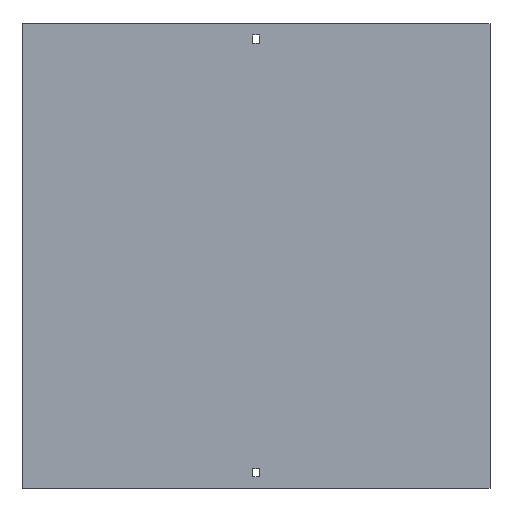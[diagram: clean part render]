
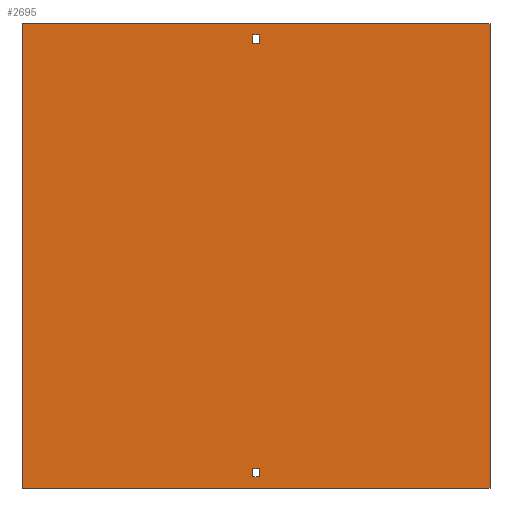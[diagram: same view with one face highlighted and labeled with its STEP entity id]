
A CAD part, front view. The second image highlights one B-rep face of the part: STEP entity #2695.
In plain terms, the highlighted planar face has unit normal (0, -1, 0).
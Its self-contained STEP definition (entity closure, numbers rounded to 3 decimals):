
#17 = CARTESIAN_POINT ( 'NONE',  ( -252., 0., -250. ) ) ;
#29 = VERTEX_POINT ( 'NONE', #17 ) ;
#41 = LINE ( 'NONE', #2414, #1648 ) ;
#57 = LINE ( 'NONE', #2650, #1333 ) ;
#61 = FACE_BOUND ( 'NONE', #2345, .T. ) ;
#82 = VECTOR ( 'NONE', #1826, 1000. ) ;
#109 = CARTESIAN_POINT ( 'NONE',  ( -252., 0., 250. ) ) ;
#125 = LINE ( 'NONE', #109, #2412 ) ;
#224 = DIRECTION ( 'NONE',  ( 0., 1., 0. ) ) ;
#256 = VERTEX_POINT ( 'NONE', #534 ) ;
#280 = CARTESIAN_POINT ( 'NONE',  ( -252., 0., 250. ) ) ;
#292 = VECTOR ( 'NONE', #1107, 1000. ) ;
#301 = VECTOR ( 'NONE', #2267, 1000. ) ;
#345 = CARTESIAN_POINT ( 'NONE',  ( -252., 0., -250. ) ) ;
#352 = CARTESIAN_POINT ( 'NONE',  ( -3.25, 0., -238. ) ) ;
#373 = DIRECTION ( 'NONE',  ( -1., 0., 0. ) ) ;
#444 = EDGE_CURVE ( 'NONE', #1055, #29, #1349, .T. ) ;
#498 = EDGE_LOOP ( 'NONE', ( #2254, #854, #996, #1652 ) ) ;
#534 = CARTESIAN_POINT ( 'NONE',  ( 3.25, 0., -229. ) ) ;
#544 = CARTESIAN_POINT ( 'NONE',  ( 3.25, 0., 238. ) ) ;
#551 = VERTEX_POINT ( 'NONE', #1809 ) ;
#552 = EDGE_CURVE ( 'NONE', #1179, #2027, #2661, .T. ) ;
#553 = LINE ( 'NONE', #345, #2188 ) ;
#580 = CARTESIAN_POINT ( 'NONE',  ( -3.25, 0., -229. ) ) ;
#631 = ORIENTED_EDGE ( 'NONE', *, *, #1662, .T. ) ;
#643 = DIRECTION ( 'NONE',  ( 1., 0., 0. ) ) ;
#670 = DIRECTION ( 'NONE',  ( -1., 0., 0. ) ) ;
#761 = EDGE_CURVE ( 'NONE', #1334, #551, #1670, .T. ) ;
#767 = ORIENTED_EDGE ( 'NONE', *, *, #967, .F. ) ;
#833 = ORIENTED_EDGE ( 'NONE', *, *, #1322, .F. ) ;
#854 = ORIENTED_EDGE ( 'NONE', *, *, #875, .F. ) ;
#875 = EDGE_CURVE ( 'NONE', #2545, #1916, #41, .T. ) ;
#893 = EDGE_CURVE ( 'NONE', #2241, #1179, #1304, .T. ) ;
#943 = DIRECTION ( 'NONE',  ( 0., 0., -1. ) ) ;
#967 = EDGE_CURVE ( 'NONE', #551, #2727, #995, .T. ) ;
#969 = LINE ( 'NONE', #986, #301 ) ;
#986 = CARTESIAN_POINT ( 'NONE',  ( -3.25, 0., -229. ) ) ;
#994 = DIRECTION ( 'NONE',  ( 1., 0., 0. ) ) ;
#995 = LINE ( 'NONE', #1617, #2671 ) ;
#996 = ORIENTED_EDGE ( 'NONE', *, *, #2051, .F. ) ;
#1055 = VERTEX_POINT ( 'NONE', #1147 ) ;
#1107 = DIRECTION ( 'NONE',  ( 0., 0., -1. ) ) ;
#1147 = CARTESIAN_POINT ( 'NONE',  ( -252., 0., 250. ) ) ;
#1172 = ORIENTED_EDGE ( 'NONE', *, *, #1807, .T. ) ;
#1179 = VERTEX_POINT ( 'NONE', #1659 ) ;
#1303 = CARTESIAN_POINT ( 'NONE',  ( 3.25, 0., 238. ) ) ;
#1304 = LINE ( 'NONE', #1738, #1954 ) ;
#1322 = EDGE_CURVE ( 'NONE', #2727, #1988, #2613, .T. ) ;
#1329 = VECTOR ( 'NONE', #1840, 1000. ) ;
#1333 = VECTOR ( 'NONE', #943, 1000. ) ;
#1334 = VERTEX_POINT ( 'NONE', #1303 ) ;
#1349 = LINE ( 'NONE', #2372, #292 ) ;
#1430 = AXIS2_PLACEMENT_3D ( 'NONE', #280, #224, #670 ) ;
#1538 = CARTESIAN_POINT ( 'NONE',  ( 252., 0., -250. ) ) ;
#1566 = CARTESIAN_POINT ( 'NONE',  ( -3.25, 0., 229. ) ) ;
#1573 = DIRECTION ( 'NONE',  ( 0., 0., -1. ) ) ;
#1602 = VECTOR ( 'NONE', #643, 1000. ) ;
#1615 = ORIENTED_EDGE ( 'NONE', *, *, #552, .T. ) ;
#1617 = CARTESIAN_POINT ( 'NONE',  ( -3.25, 0., 238. ) ) ;
#1648 = VECTOR ( 'NONE', #2190, 1000. ) ;
#1652 = ORIENTED_EDGE ( 'NONE', *, *, #444, .T. ) ;
#1659 = CARTESIAN_POINT ( 'NONE',  ( -3.25, 0., -238. ) ) ;
#1662 = EDGE_CURVE ( 'NONE', #256, #2241, #57, .T. ) ;
#1670 = LINE ( 'NONE', #2090, #2752 ) ;
#1693 = ORIENTED_EDGE ( 'NONE', *, *, #1804, .F. ) ;
#1738 = CARTESIAN_POINT ( 'NONE',  ( -3.25, 0., -238. ) ) ;
#1749 = DIRECTION ( 'NONE',  ( -1., 0., 0. ) ) ;
#1804 = EDGE_CURVE ( 'NONE', #1988, #1334, #2500, .T. ) ;
#1805 = CARTESIAN_POINT ( 'NONE',  ( 3.25, 0., 229. ) ) ;
#1807 = EDGE_CURVE ( 'NONE', #2027, #256, #969, .T. ) ;
#1809 = CARTESIAN_POINT ( 'NONE',  ( -3.25, 0., 238. ) ) ;
#1826 = DIRECTION ( 'NONE',  ( 0., 0., 1. ) ) ;
#1840 = DIRECTION ( 'NONE',  ( 0., 0., 1. ) ) ;
#1889 = CARTESIAN_POINT ( 'NONE',  ( 252., 0., 250. ) ) ;
#1916 = VERTEX_POINT ( 'NONE', #1538 ) ;
#1942 = EDGE_LOOP ( 'NONE', ( #1615, #1172, #631, #2209 ) ) ;
#1954 = VECTOR ( 'NONE', #1749, 1000. ) ;
#1988 = VERTEX_POINT ( 'NONE', #1805 ) ;
#2027 = VERTEX_POINT ( 'NONE', #580 ) ;
#2051 = EDGE_CURVE ( 'NONE', #1055, #2545, #125, .T. ) ;
#2090 = CARTESIAN_POINT ( 'NONE',  ( -3.25, 0., 238. ) ) ;
#2125 = EDGE_CURVE ( 'NONE', #29, #1916, #553, .T. ) ;
#2154 = CARTESIAN_POINT ( 'NONE',  ( 3.25, 0., -238. ) ) ;
#2188 = VECTOR ( 'NONE', #994, 1000. ) ;
#2190 = DIRECTION ( 'NONE',  ( 0., 0., -1. ) ) ;
#2206 = ORIENTED_EDGE ( 'NONE', *, *, #761, .F. ) ;
#2209 = ORIENTED_EDGE ( 'NONE', *, *, #893, .T. ) ;
#2241 = VERTEX_POINT ( 'NONE', #2154 ) ;
#2254 = ORIENTED_EDGE ( 'NONE', *, *, #2125, .T. ) ;
#2267 = DIRECTION ( 'NONE',  ( 1., 0., 0. ) ) ;
#2345 = EDGE_LOOP ( 'NONE', ( #833, #767, #2206, #1693 ) ) ;
#2372 = CARTESIAN_POINT ( 'NONE',  ( -252., 0., 250. ) ) ;
#2377 = FACE_BOUND ( 'NONE', #1942, .T. ) ;
#2412 = VECTOR ( 'NONE', #2672, 1000. ) ;
#2414 = CARTESIAN_POINT ( 'NONE',  ( 252., 0., 250. ) ) ;
#2432 = PLANE ( 'NONE',  #1430 ) ;
#2500 = LINE ( 'NONE', #544, #82 ) ;
#2545 = VERTEX_POINT ( 'NONE', #1889 ) ;
#2567 = CARTESIAN_POINT ( 'NONE',  ( -3.25, 0., 229. ) ) ;
#2594 = FACE_OUTER_BOUND ( 'NONE', #498, .T. ) ;
#2613 = LINE ( 'NONE', #2567, #1602 ) ;
#2650 = CARTESIAN_POINT ( 'NONE',  ( 3.25, 0., -238. ) ) ;
#2661 = LINE ( 'NONE', #352, #1329 ) ;
#2671 = VECTOR ( 'NONE', #1573, 1000. ) ;
#2672 = DIRECTION ( 'NONE',  ( 1., 0., 0. ) ) ;
#2695 = ADVANCED_FACE ( 'NONE', ( #2594, #61, #2377 ), #2432, .F. ) ;
#2727 = VERTEX_POINT ( 'NONE', #1566 ) ;
#2752 = VECTOR ( 'NONE', #373, 1000. ) ;
